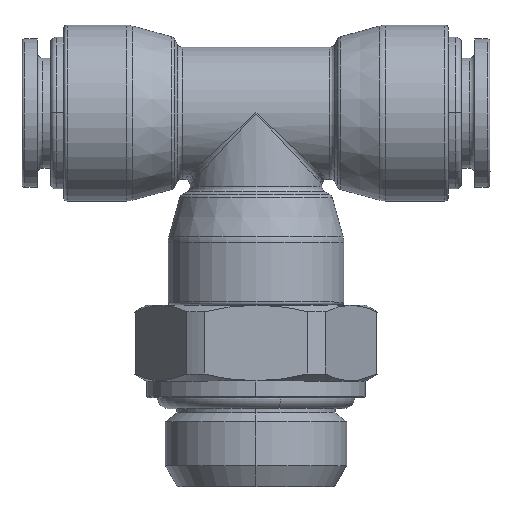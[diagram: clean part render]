
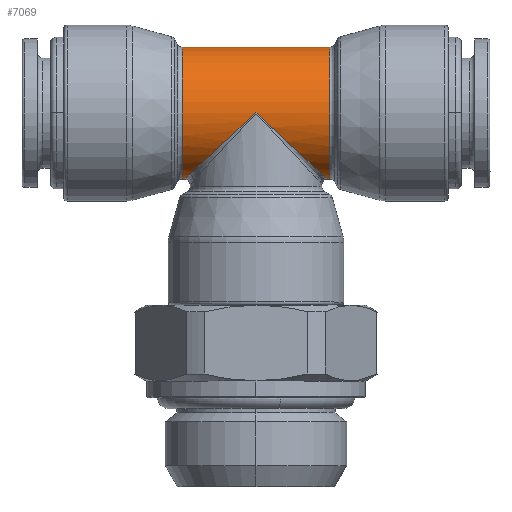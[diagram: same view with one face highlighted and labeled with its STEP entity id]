
A CAD part, top view. The second image highlights one B-rep face of the part: STEP entity #7069.
In plain terms, the highlighted cylindrical face has radius 6 mm (diameter 12 mm), a partial arc.
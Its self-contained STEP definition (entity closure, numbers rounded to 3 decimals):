
#138 = CARTESIAN_POINT ( 'NONE',  ( 17.5, -6., 0. ) ) ;
#170 = ORIENTED_EDGE ( 'NONE', *, *, #3477, .T. ) ;
#253 = EDGE_CURVE ( 'NONE', #11115, #7092, #13594, .T. ) ;
#389 = ORIENTED_EDGE ( 'NONE', *, *, #2115, .F. ) ;
#415 = AXIS2_PLACEMENT_3D ( 'NONE', #1503, #683, #7172 ) ;
#511 = VERTEX_POINT ( 'NONE', #4109 ) ;
#683 = DIRECTION ( 'NONE',  ( -1., 0., 0. ) ) ;
#802 = CARTESIAN_POINT ( 'NONE',  ( 6.711, 6., 0. ) ) ;
#882 = CARTESIAN_POINT ( 'NONE',  ( 0., 0., 6. ) ) ;
#1503 = CARTESIAN_POINT ( 'NONE',  ( -6.711, 0., 0. ) ) ;
#1790 = CIRCLE ( 'NONE', #3764, 6. ) ;
#2115 = EDGE_CURVE ( 'NONE', #511, #5693, #4150, .T. ) ;
#2333 = CARTESIAN_POINT ( 'NONE',  ( 17.5, 0., 0. ) ) ;
#2596 = DIRECTION ( 'NONE',  ( 0., 1., 0. ) ) ;
#3094 = FACE_OUTER_BOUND ( 'NONE', #9006, .T. ) ;
#3284 = CARTESIAN_POINT ( 'NONE',  ( -6.5, -6., 3.515 ) ) ;
#3399 = LINE ( 'NONE', #8788, #10950 ) ;
#3477 = EDGE_CURVE ( 'NONE', #12458, #4632, #9202, .T. ) ;
#3764 = AXIS2_PLACEMENT_3D ( 'NONE', #8880, #12802, #7799 ) ;
#3969 = ORIENTED_EDGE ( 'NONE', *, *, #11167, .F. ) ;
#4109 = CARTESIAN_POINT ( 'NONE',  ( -6.711, -6., 0. ) ) ;
#4150 = CIRCLE ( 'NONE', #415, 6. ) ;
#4632 = VERTEX_POINT ( 'NONE', #12517 ) ;
#4816 = CARTESIAN_POINT ( 'NONE',  ( 0., 0., 6. ) ) ;
#4959 = ORIENTED_EDGE ( 'NONE', *, *, #7021, .T. ) ;
#4976 = CARTESIAN_POINT ( 'NONE',  ( 6.5, -6., 0. ) ) ;
#5093 = CARTESIAN_POINT ( 'NONE',  ( -6.711, 6., 0. ) ) ;
#5169 = CARTESIAN_POINT ( 'NONE',  ( -6.5, -6., 0. ) ) ;
#5610 = DIRECTION ( 'NONE',  ( 1., 0., 0. ) ) ;
#5678 = ORIENTED_EDGE ( 'NONE', *, *, #253, .T. ) ;
#5693 = VERTEX_POINT ( 'NONE', #5093 ) ;
#6051 = EDGE_CURVE ( 'NONE', #5693, #9306, #3399, .T. ) ;
#6355 = LINE ( 'NONE', #138, #6600 ) ;
#6600 = VECTOR ( 'NONE', #12545, 1000. ) ;
#7021 = EDGE_CURVE ( 'NONE', #511, #11115, #6355, .T. ) ;
#7069 = ADVANCED_FACE ( 'NONE', ( #3094 ), #7339, .T. ) ;
#7092 = VERTEX_POINT ( 'NONE', #8691 ) ;
#7111 = EDGE_CURVE ( 'NONE', #7092, #12458, #10655, .T. ) ;
#7172 = DIRECTION ( 'NONE',  ( 0., -1., 0. ) ) ;
#7339 = CYLINDRICAL_SURFACE ( 'NONE', #12067, 6. ) ;
#7605 = DIRECTION ( 'NONE',  ( 1., 0., 0. ) ) ;
#7799 = DIRECTION ( 'NONE',  ( 0., 1., 0. ) ) ;
#8136 = CARTESIAN_POINT ( 'NONE',  ( 6.5, -6., 3.515 ) ) ;
#8398 = ORIENTED_EDGE ( 'NONE', *, *, #6051, .F. ) ;
#8550 = CARTESIAN_POINT ( 'NONE',  ( -6.5, -6., 0. ) ) ;
#8691 = CARTESIAN_POINT ( 'NONE',  ( 0., 0., 6. ) ) ;
#8788 = CARTESIAN_POINT ( 'NONE',  ( 17.5, 6., 0. ) ) ;
#8880 = CARTESIAN_POINT ( 'NONE',  ( 6.711, 0., 0. ) ) ;
#9006 = EDGE_LOOP ( 'NONE', ( #389, #4959, #5678, #11069, #170, #3969, #8398 ) ) ;
#9017 = CARTESIAN_POINT ( 'NONE',  ( 6.5, -6., 0. ) ) ;
#9202 = LINE ( 'NONE', #13401, #10221 ) ;
#9306 = VERTEX_POINT ( 'NONE', #802 ) ;
#9362 = CARTESIAN_POINT ( 'NONE',  ( -3.808, -3.515, 6. ) ) ;
#10221 = VECTOR ( 'NONE', #12369, 1000. ) ;
#10655 =( BOUNDED_CURVE ( )  B_SPLINE_CURVE ( 3, ( #4816, #11008, #8136, #9017 ),
 .UNSPECIFIED., .F., .T. ) 
 B_SPLINE_CURVE_WITH_KNOTS ( ( 4, 4 ),
 ( 4.712, 6.283 ),
 .UNSPECIFIED. ) 
 CURVE ( )  GEOMETRIC_REPRESENTATION_ITEM ( )  RATIONAL_B_SPLINE_CURVE ( ( 1., 0.805, 0.805, 1. ) ) 
 REPRESENTATION_ITEM ( '' )  );
#10950 = VECTOR ( 'NONE', #5610, 1000. ) ;
#11008 = CARTESIAN_POINT ( 'NONE',  ( 3.808, -3.515, 6. ) ) ;
#11069 = ORIENTED_EDGE ( 'NONE', *, *, #7111, .T. ) ;
#11115 = VERTEX_POINT ( 'NONE', #8550 ) ;
#11167 = EDGE_CURVE ( 'NONE', #9306, #4632, #1790, .T. ) ;
#12067 = AXIS2_PLACEMENT_3D ( 'NONE', #2333, #7605, #2596 ) ;
#12369 = DIRECTION ( 'NONE',  ( 1., 0., 0. ) ) ;
#12458 = VERTEX_POINT ( 'NONE', #4976 ) ;
#12517 = CARTESIAN_POINT ( 'NONE',  ( 6.711, -6., 0. ) ) ;
#12545 = DIRECTION ( 'NONE',  ( 1., 0., 0. ) ) ;
#12802 = DIRECTION ( 'NONE',  ( 1., 0., 0. ) ) ;
#13401 = CARTESIAN_POINT ( 'NONE',  ( 17.5, -6., 0. ) ) ;
#13594 =( BOUNDED_CURVE ( )  B_SPLINE_CURVE ( 3, ( #5169, #3284, #9362, #882 ),
 .UNSPECIFIED., .F., .T. ) 
 B_SPLINE_CURVE_WITH_KNOTS ( ( 4, 4 ),
 ( 3.142, 4.712 ),
 .UNSPECIFIED. ) 
 CURVE ( )  GEOMETRIC_REPRESENTATION_ITEM ( )  RATIONAL_B_SPLINE_CURVE ( ( 1., 0.805, 0.805, 1. ) ) 
 REPRESENTATION_ITEM ( '' )  );
